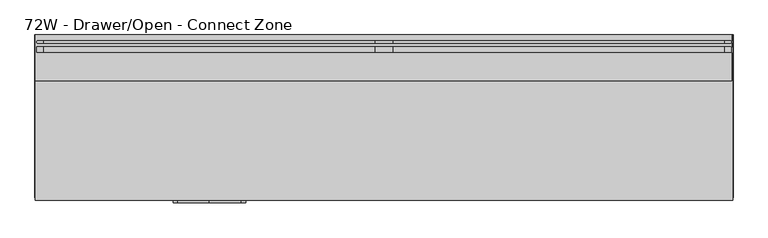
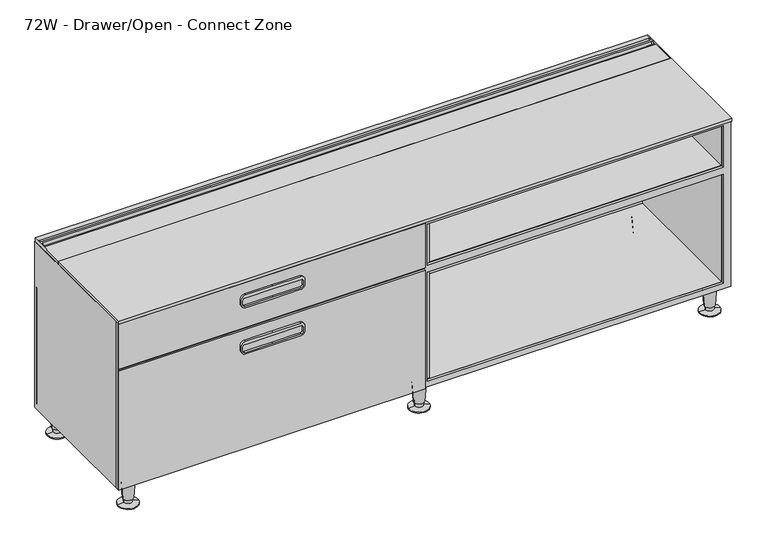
"""IFC4 building model written with IfcOpenShell, lengths in millimetres: furniture geometry, Steelcase - C Scape - Low Storage - 1.5 High - 60W and 72W : 72W - Drawer/Open - Connect Zone."""

from ifc_helpers import new_model, si_unit, point, frame, frame_2d, origin, place, context, project, spatial, polyline, circle_curve, trimmed, segment, composite_curve, outline, extrude, faceted_brep, source, transform, mapped, element, save
from ifc_brep_helpers import plane_surface, cylinder_surface, revolved_surface, advanced_brep


def furniture_72w_drawer_open_connect_zone_11b3cc17(model_context):
    return source(origin(), model_context, "Body", "SolidModel", [
        advanced_brep(
        [(-302.0173728, -29.5783496, 599.4426137), (-302.0173728, -29.5783496, 458.7801967), (-302.0173728, -9.5194193, 458.7801967), (-302.0173728, -9.5194193, 466.2604814), (-302.0173728, 0.0055807, 466.2604814), (-302.0173728, 0.0055807, 599.4426137), (-302.0173728, -17.0388453, 599.4426137), (-302.0173728, -17.0388453, 609.5926846), (-302.0173728, -20.5059237, 609.5926846), (-302.0173728, -20.5059237, 599.4426137), (-302.0173728, -46.4703418, 599.4426137), (-302.0173728, -32.0458511, 599.4426137), (-302.0173728, -32.0458511, 609.5926846), (-302.0173728, -46.4703418, 609.5926846), (-304.8013237, -120.6444193, 599.4426137), (-304.8013237, -120.6444193, 609.5926846), (-304.8013237, 0.0055807, 609.5926846), (-304.8013237, 0.0055807, 466.2604814), (-304.8013237, -9.5194193, 466.2604814), (-304.8013237, -9.5194193, 458.7801967), (-304.8013237, -29.5783496, 458.7801967), (-304.8013237, -29.5783496, 599.4426137), (-299.2329352, -23.2903613, 599.4426137), (1516.9507358, -23.2903613, 599.4426137), (1519.9272317, -20.3138654, 599.4426137), (1519.9473728, -32.274699, 599.4426137), (1517.2308823, -29.5783496, 599.4426137), (-299.5498713, -29.5783496, 599.4426137), (1519.9473728, -46.4703418, 599.4426137), (1519.9473728, -120.5681445, 599.4426137), (-299.3205978, -14.3420703, 599.4426137), (1519.9473728, 0.0, 599.4426137), (1519.9473728, -17.0388453, 599.4426137), (1517.2505978, -14.3420703, 599.4426137), (1519.9473728, 0.0055807, 609.5926846), (1519.9473728, -120.5681445, 609.5926846), (1519.9473728, -46.4703418, 609.5926846), (-299.5498713, -29.5783496, 609.5926846), (1517.2308823, -29.5783496, 609.5926846), (1519.9272317, -32.274699, 609.5926846), (1519.9473728, -20.3138654, 609.5926846), (1516.9507358, -23.2903613, 609.5926846), (-299.2329352, -23.2903613, 609.5926846), (-299.3205978, -14.3420703, 609.5926846), (1517.2505978, -14.3420703, 609.5926846), (1519.9473728, -17.0388453, 609.5926846)],
        [
            (0, 1),
            (1, 2),
            (2, 3),
            (3, 4),
            (4, 5),
            (5, 6),
            (6, 7),
            (7, 8),
            (8, 9),
            (9, 0),
            (10, 11),
            (11, 12),
            (12, 13),
            (13, 10),
            (14, 15),
            (15, 16),
            (16, 17),
            (17, 18),
            (18, 19),
            (19, 20),
            (20, 21),
            (21, 14),
            (21, 0),
            (9, 22, circle_curve(frame((-299.2329352, -20.5059237, 599.4426137), z_axis=(0.0, 0.0, 1.0), x_axis=(1.0, 0.0, 0.0)), 2.7844376)),
            (22, 23),
            (23, 24, circle_curve(frame((1516.9507358, -20.3138654, 599.4426137), z_axis=(0.0, 0.0, 1.0), x_axis=(1.0, 0.0, 0.0)), 2.9764959)),
            (24, 25),
            (25, 26, circle_curve(frame((1517.2308823, -32.274699, 599.4426137), z_axis=(0.0, 0.0, 1.0), x_axis=(1.0, 0.0, 0.0)), 2.6963494)),
            (26, 27),
            (27, 11, circle_curve(frame((-299.5498713, -32.0458511, 599.4426137), z_axis=(0.0, 0.0, 1.0), x_axis=(1.0, 0.0, 0.0)), 2.4675015)),
            (10, 28),
            (28, 29),
            (29, 14),
            (30, 6, circle_curve(frame((-299.3205978, -17.0388453, 599.4426137), z_axis=(0.0, 0.0, 1.0), x_axis=(1.0, 0.0, 0.0)), 2.696775)),
            (5, 31),
            (31, 32),
            (32, 33, circle_curve(frame((1517.2505978, -17.0388453, 599.4426137), z_axis=(0.0, 0.0, 1.0), x_axis=(1.0, 0.0, 0.0)), 2.696775)),
            (33, 30),
            (20, 1),
            (19, 2),
            (18, 3),
            (17, 4),
            (16, 34),
            (34, 31),
            (15, 35),
            (35, 36),
            (36, 13),
            (12, 37, circle_curve(frame((-299.5498713, -32.0458511, 609.5926846), z_axis=(0.0, 0.0, -1.0), x_axis=(1.0, 0.0, 0.0)), 2.4675015)),
            (37, 38),
            (38, 39, circle_curve(frame((1517.2308823, -32.274699, 609.5926846), z_axis=(0.0, 0.0, -1.0), x_axis=(1.0, 0.0, 0.0)), 2.6963494)),
            (39, 40),
            (40, 41, circle_curve(frame((1516.9507358, -20.3138654, 609.5926846), z_axis=(0.0, 0.0, -1.0), x_axis=(1.0, 0.0, 0.0)), 2.9764959)),
            (41, 42),
            (42, 8, circle_curve(frame((-299.2329352, -20.5059237, 609.5926846), z_axis=(0.0, 0.0, -1.0), x_axis=(1.0, 0.0, 0.0)), 2.7844376)),
            (7, 43, circle_curve(frame((-299.3205978, -17.0388453, 609.5926846), z_axis=(0.0, 0.0, -1.0), x_axis=(1.0, 0.0, 0.0)), 2.696775)),
            (43, 44),
            (44, 45, circle_curve(frame((1517.2505978, -17.0388453, 609.5926846), z_axis=(0.0, 0.0, -1.0), x_axis=(1.0, 0.0, 0.0)), 2.696775)),
            (45, 34),
            (29, 35),
            (38, 26),
            (25, 39),
            (24, 40),
            (23, 41),
            (22, 42),
            (27, 37),
            (36, 28),
            (43, 30),
            (33, 44),
            (32, 45),
        ],
        [
            plane_surface(frame((-302.0173728, -120.6444193, 599.4426137), z_axis=(1.0, 0.0, 0.0), x_axis=(0.0, 1.0, 0.0))),
            plane_surface(frame((-304.8013237, -120.6444193, 599.4426137), z_axis=(-1.0, 0.0, 0.0), x_axis=(0.0, -1.0, 0.0))),
            plane_surface(frame((-302.0173728, -120.6444193, 599.4426137), z_axis=(0.0, 0.0, -1.0), x_axis=(-1.0, 0.0, 0.0))),
            plane_surface(frame((-302.0173728, -29.5783496, 599.4426137), z_axis=(0.0, -1.0, 0.0), x_axis=(-1.0, 0.0, 0.0))),
            plane_surface(frame((-302.0173728, -29.5783496, 458.7801967), z_axis=(0.0, 0.0, -1.0), x_axis=(-1.0, 0.0, 0.0))),
            plane_surface(frame((-302.0173728, -9.5194193, 458.7801967), z_axis=(0.0, 1.0, 0.0), x_axis=(-1.0, 0.0, 0.0))),
            plane_surface(frame((-302.0173728, -9.5194193, 466.2604814), z_axis=(0.0, 0.0, -1.0), x_axis=(-1.0, 0.0, 0.0))),
            plane_surface(frame((-302.0173728, 0.0055807, 466.2604814), z_axis=(0.0, 1.0, 0.0), x_axis=(-1.0, 0.0, 0.0))),
            plane_surface(frame((-302.0173728, 0.0055807, 609.5926846), z_axis=(0.0, 0.0, 1.0), x_axis=(-1.0, 0.0, 0.0))),
            plane_surface(frame((-302.0173728, -120.6444193, 609.5926846), z_axis=(0.0, -1.0, 0.0), x_axis=(-1.0, 0.0, 0.0))),
            revolved_surface(polyline([(1519.9272317, -32.274699, 599.4426137), (1519.9272317, -32.274699, 609.5926846)]), (1517.2308823, -32.274699, 599.4426137), (0.0, 0.0, -1.0)),
            plane_surface(frame((1519.9473728, -32.274699, 609.5926846), z_axis=(1.0, 0.0, 0.0), x_axis=(0.0, 0.0, -1.0))),
            revolved_surface(polyline([(1519.9272317, -20.3138654, 599.4426137), (1519.9272317, -20.3138654, 609.5926846)]), (1516.9507358, -20.3138654, 599.4426137), (0.0, 0.0, -1.0)),
            plane_surface(frame((1516.9507358, -23.2903613, 609.5926846), z_axis=(0.0, 1.0, 0.0), x_axis=(0.0, 0.0, -1.0))),
            revolved_surface(polyline([(-296.4484976, -20.5059237, 599.4426137), (-296.4484976, -20.5059237, 609.5926846)]), (-299.2329352, -20.5059237, 599.4426137), (0.0, 0.0, -1.0)),
            revolved_surface(polyline([(-297.0823698, -32.0458511, 599.4426137), (-297.0823698, -32.0458511, 609.5926846)]), (-299.5498713, -32.0458511, 599.4426137), (0.0, 0.0, -1.0)),
            plane_surface(frame((-299.5498713, -29.5783496, 609.5926846), z_axis=(0.0, -1.0, 0.0), x_axis=(0.0, 0.0, -1.0))),
            plane_surface(frame((1519.9473728, -46.4703418, 609.5926846), z_axis=(0.0, 1.0, 0.0), x_axis=(0.0, 0.0, -1.0))),
            plane_surface(frame((1519.9473728, -120.5681445, 609.5926846), z_axis=(1.0, 0.0, 0.0), x_axis=(0.0, 0.0, -1.0))),
            plane_surface(frame((-299.3205978, -14.3420703, 609.5926846), z_axis=(0.0, -1.0, 0.0), x_axis=(0.0, 0.0, -1.0))),
            revolved_surface(polyline([(1519.9473727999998, -17.0388453, 599.4426137), (1519.9473727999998, -17.0388453, 609.5926846)]), (1517.2505978, -17.0388453, 41.6222656), (0.0, 0.0, -1.0)),
            plane_surface(frame((1519.9473728, -17.0388453, 609.5926846), z_axis=(1.0, 0.0, 0.0), x_axis=(0.0, 0.0, -1.0))),
            revolved_surface(polyline([(-296.62382279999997, -17.0388453, 599.4426137), (-296.62382279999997, -17.0388453, 609.5926846)]), (-299.3205978, -17.0388453, 41.6222656), (0.0, 0.0, -1.0)),
        ],
        [
            (0, [[1, 2, 3, 4, 5, 6, 7, 8, 9, 10]]),
            (0, [[11, 12, 13, 14]]),
            (1, [[15, 16, 17, 18, 19, 20, 21, 22]]),
            (2, [[-22, 23, -10, 24, 25, 26, 27, 28, 29, 30, -11, 31, 32, 33]]),
            (2, [[34, -6, 35, 36, 37, 38]]),
            (3, [[-1, -23, -21, 39]]),
            (4, [[-2, -39, -20, 40]]),
            (5, [[-3, -40, -19, 41]]),
            (6, [[-4, -41, -18, 42]]),
            (7, [[-17, 43, 44, -35, -5, -42]]),
            (8, [[-43, -16, 45, 46, 47, -13, 48, 49, 50, 51, 52, 53, 54, -8, 55, 56, 57, 58]]),
            (9, [[-45, -15, -33, 59]]),
            (10, [[-50, 60, -28, 61]]),
            (11, [[-51, -61, -27, 62]]),
            (12, [[-52, -62, -26, 63]]),
            (13, [[-53, -63, -25, 64]]),
            (14, [[-54, -64, -24, -9]]),
            (15, [[-48, -12, -30, 65]]),
            (16, [[-49, -65, -29, -60]]),
            (17, [[-47, 66, -31, -14]]),
            (18, [[-46, -59, -32, -66]]),
            (19, [[-56, 67, -38, 68]]),
            (20, [[-57, -68, -37, 69]]),
            (21, [[-58, -69, -36, -44]]),
            (22, [[-55, -7, -34, -67]]),
        ],
    ),
        extrude(outline(polyline([(458.7240097, 724.5950189), (432.6382043, 724.5950189), (432.6382043, 602.2975), (432.6382043, 493.3349811), (458.7240097, 493.3349811), (458.7240097, -304.8013237), (92.7100024, -304.8013237), (92.7100024, 1522.73), (458.7240097, 1522.73), (458.7240097, 724.5950189)])), frame((0.0, -9.5194193, 0.0), z_axis=(0.0, 1.0, 0.0), x_axis=(0.0, 0.0, 1.0)), (0.0, 0.0, 1.0), 9.525),
        extrude(outline(polyline([(-120.6444193, 609.6), (-120.6444193, 450.8499879), (-126.9863574, 450.8499879), (-126.9863574, 599.4499291), (-433.07, 599.4499291), (-433.07, 609.6), (-120.6444193, 609.6)])), frame((-304.8013237, 0.0, 0.0), z_axis=(1.0, 0.0, 0.0), x_axis=(0.0, 1.0, 0.0)), (0.0, 0.0, 1.0), 1827.5313237),
        extrude(outline(polyline([(-120.6444193, 599.4426137), (-120.6444193, 609.5926846), (0.0055807, 609.5926846), (0.0055807, 466.2604814), (-9.5194193, 466.2604814), (-9.5194193, 458.7801967), (-29.5783496, 458.7801967), (-29.5783496, 599.4426137), (-120.6444193, 599.4426137)])), frame((1519.9473728, 0.0, 0.0), z_axis=(1.0, 0.0, 0.0), x_axis=(0.0, 1.0, 0.0)), (0.0, 0.0, 1.0), 2.7826272),
        extrude(outline(polyline([(76.1508625, -305.435), (76.1508625, 1523.365), (599.4400097, 1523.365), (599.4400097, 609.532594), (599.4400097, -305.435), (76.1508625, -305.435)]), holes=[polyline([(92.7100024, 600.0410976), (92.7100024, -283.4617676), (436.8800097, -283.4617676), (436.8800097, 600.0410976), (92.7100024, 600.0410976)]), polyline([(588.9625, -283.4617676), (588.9625, 600.0410976), (458.7240097, 600.0410976), (458.7240097, -283.4617676), (588.9625, -283.4617676)]), polyline([(436.8800097, 617.8889024), (436.8800097, 1501.3917676), (92.7100024, 1501.3917676), (92.7100024, 617.8889024), (436.8800097, 617.8889024)]), polyline([(588.9625, 1501.3917676), (458.7240097, 1501.3917676), (458.7240097, 617.8889024), (588.9625, 617.8889024), (588.9625, 1501.3917676)])]), frame((0.0, -426.7186111, 0.0), z_axis=(0.0, 1.0, 0.0), x_axis=(0.0, 0.0, 1.0)), (0.0, 0.0, 1.0), 7.3648883),
        extrude(outline(polyline([(1523.365, 0.0), (1523.365, -419.3537227), (1501.3917676, -419.3537227), (1501.3917676, 0.0), (1523.365, 0.0)])), frame((0.0, 0.0, 76.2), z_axis=(0.0, 0.0, 1.0), x_axis=(1.0, 0.0, 0.0)), (0.0, 0.0, 1.0), 523.2400097),
        extrude(outline(polyline([(-283.4630912, -419.3537227), (-305.435, -419.3537227), (-305.435, 0.0), (-283.4630912, 0.0), (-283.4630912, -419.3537227)])), frame((0.0, 0.0, 76.2), z_axis=(0.0, 0.0, 1.0), x_axis=(1.0, 0.0, 0.0)), (0.0, 0.0, 1.0), 523.2400097),
        extrude(outline(polyline([(586.4224874, -415.2912402), (586.4224874, -9.525), (631.5075126, -9.525), (631.5075126, -415.2912402), (586.4224874, -415.2912402)])), frame((0.0, 0.0, 76.2), z_axis=(0.0, 0.0, 1.0), x_axis=(1.0, 0.0, 0.0)), (0.0, 0.0, 1.0), 523.2400097),
        extrude(outline(polyline([(631.5075126, -9.525), (1501.3917676, -9.525), (1501.3917676, -415.2912402), (631.5075126, -415.2912402), (631.5075126, -9.525)])), frame((0.0, 0.0, 436.8800097), z_axis=(0.0, 0.0, 1.0), x_axis=(1.0, 0.0, 0.0)), (0.0, 0.0, 1.0), 21.844),
        extrude(outline(polyline([(586.4224874, -415.2912402), (-283.4617676, -415.2912402), (-283.4617676, -9.525), (586.4224874, -9.525), (586.4224874, -415.2912402)])), frame((0.0, 0.0, 436.8800097), z_axis=(0.0, 0.0, 1.0), x_axis=(1.0, 0.0, 0.0)), (0.0, 0.0, 1.0), 21.844),
        extrude(outline(composite_curve([segment(polyline([(419.0999879, 233.6804108), (419.0999879, 151.447655), (419.0999879, 69.2148993)]), True, "CONTINUOUS"), segment(trimmed(circle_curve(frame_2d((406.3999879, 69.2148993)), 12.7), [point((419.0999879, 69.2148993))], [point((406.3999879, 56.5148993))], False, "CARTESIAN"), True, "CONTINUOUS"), segment(polyline([(406.3999879, 56.5148993), (391.795017, 56.5148993)]), True, "CONTINUOUS"), segment(trimmed(circle_curve(frame_2d((391.795017, 69.2148993)), 12.7), [point((391.795017, 56.5148993))], [point((379.095017, 69.2148993))], False, "CARTESIAN"), True, "CONTINUOUS"), segment(polyline([(379.095017, 69.2148993), (379.095017, 151.447655), (379.095017, 233.6804108)]), True, "CONTINUOUS"), segment(trimmed(circle_curve(frame_2d((391.795017, 233.6804108)), 12.7), [point((379.095017, 233.6804108))], [point((391.795017, 246.3804108))], False, "CARTESIAN"), True, "CONTINUOUS"), segment(polyline([(391.795017, 246.3804108), (406.3999879, 246.3804108)]), True, "CONTINUOUS"), segment(trimmed(circle_curve(frame_2d((406.3999879, 233.6804108)), 12.7), [point((406.3999879, 246.3804108))], [point((419.0999879, 233.6804108))], False, "CARTESIAN"), True, "CONTINUOUS")], self_intersect=False), holes=[composite_curve([segment(polyline([(402.9710063, 241.5527985), (390.2709942, 241.5527985)]), True, "CONTINUOUS"), segment(trimmed(circle_curve(frame_2d((390.2709942, 235.2027985)), 6.35), [point((390.2709942, 241.5527985))], [point((383.9209942, 235.2027985))], True, "CARTESIAN"), True, "CONTINUOUS"), segment(polyline([(383.9209942, 235.2027985), (383.9209942, 151.447655), (383.9209942, 67.6925116)]), True, "CONTINUOUS"), segment(trimmed(circle_curve(frame_2d((390.2709942, 67.6925116)), 6.35), [point((383.9209942, 67.6925116))], [point((390.2709942, 61.3425116))], True, "CARTESIAN"), True, "CONTINUOUS"), segment(polyline([(390.2709942, 61.3425116), (402.9710063, 61.3425116)]), True, "CONTINUOUS"), segment(trimmed(circle_curve(frame_2d((402.9710063, 67.6925116)), 6.35), [point((402.9710063, 61.3425116))], [point((409.3210063, 67.6925116))], True, "CARTESIAN"), True, "CONTINUOUS"), segment(polyline([(409.3210063, 67.6925116), (409.3210063, 151.447655), (409.3210063, 235.2027985)]), True, "CONTINUOUS"), segment(trimmed(circle_curve(frame_2d((402.9710063, 235.2027985)), 6.35), [point((409.3210063, 235.2027985))], [point((402.9710063, 241.5527985))], True, "CARTESIAN"), True, "CONTINUOUS")], self_intersect=False)]), frame((0.0, -439.42, 0.0), z_axis=(0.0, 1.0, 0.0), x_axis=(0.0, 0.0, 1.0)), (0.0, 0.0, 1.0), 6.35),
        extrude(outline(polyline([(608.3303101, -426.7186111), (608.3303101, -433.07), (-304.8, -433.07), (-304.8, -426.7186111), (608.3303101, -426.7186111)])), frame((0.0, 0.0, 458.7240097), z_axis=(0.0, 0.0, 1.0), x_axis=(1.0, 0.0, 0.0)), (0.0, 0.0, 1.0), 140.716),
        faceted_brep([(-283.4617676, -419.3537227, 92.7100024), (1501.3917676, -419.3537227, 92.7100024), (1501.3917676, -9.525, 92.7100024), (631.5075126, -9.525, 92.7100024), (631.5075126, -415.2912402, 92.7100024), (586.4224874, -415.2912402, 92.7100024), (586.4224874, -9.525, 92.7100024), (-283.4617676, -9.525, 92.7100024), (1523.365, 0.0, 76.2), (1523.365, -419.3537227, 76.2), (-305.435, -419.3537227, 76.2), (-305.435, 0.0, 76.2), (-283.4630912, -419.3537227, 599.4400097), (-305.435, -419.3537227, 599.4400097), (1523.365, -419.3537227, 599.4400097), (1501.3917676, -419.3537227, 599.4400097), (-305.435, 0.0, 599.4400097), (1523.365, 0.0, 599.4400097), (-283.4630912, -9.525, 599.4400097), (586.4224874, -9.525, 599.4400097), (586.4224874, -415.2912402, 599.4400097), (631.5075126, -415.2912402, 599.4400097), (631.5075126, -9.525, 599.4400097), (1501.3917676, -9.525, 599.4400097)], [[[0, 1, 2, 3, 4, 5, 6, 7]], [[8, 9, 10, 11]], [[1, 0, 12, 13, 10, 9, 14, 15]], [[8, 11, 16, 17]], [[16, 13, 12, 18, 19, 20, 21, 22, 23, 15, 14, 17]], [[13, 16, 11, 10]], [[18, 12, 0, 7]], [[19, 18, 7, 6]], [[20, 19, 6, 5]], [[22, 21, 4, 3]], [[23, 22, 3, 2]], [[15, 23, 2, 1]], [[17, 14, 9, 8]], [[21, 20, 5, 4]]]),
        extrude(outline(composite_curve([segment(polyline([(565.1499879, 233.6804108), (565.1499879, 151.447655), (565.1499879, 69.2148993)]), True, "CONTINUOUS"), segment(trimmed(circle_curve(frame_2d((552.4499879, 69.2148993)), 12.7), [point((565.1499879, 69.2148993))], [point((552.4499879, 56.5148993))], False, "CARTESIAN"), True, "CONTINUOUS"), segment(polyline([(552.4499879, 56.5148993), (537.845017, 56.5148993)]), True, "CONTINUOUS"), segment(trimmed(circle_curve(frame_2d((537.845017, 69.2148993)), 12.7), [point((537.845017, 56.5148993))], [point((525.145017, 69.2148993))], False, "CARTESIAN"), True, "CONTINUOUS"), segment(polyline([(525.145017, 69.2148993), (525.145017, 151.447655), (525.145017, 233.6804108)]), True, "CONTINUOUS"), segment(trimmed(circle_curve(frame_2d((537.845017, 233.6804108)), 12.7), [point((525.145017, 233.6804108))], [point((537.845017, 246.3804108))], False, "CARTESIAN"), True, "CONTINUOUS"), segment(polyline([(537.845017, 246.3804108), (552.4499879, 246.3804108)]), True, "CONTINUOUS"), segment(trimmed(circle_curve(frame_2d((552.4499879, 233.6804108)), 12.7), [point((552.4499879, 246.3804108))], [point((565.1499879, 233.6804108))], False, "CARTESIAN"), True, "CONTINUOUS")], self_intersect=False), holes=[composite_curve([segment(polyline([(549.0210063, 241.5527985), (536.3209942, 241.5527985)]), True, "CONTINUOUS"), segment(trimmed(circle_curve(frame_2d((536.3209942, 235.2027985)), 6.35), [point((536.3209942, 241.5527985))], [point((529.9709942, 235.2027985))], True, "CARTESIAN"), True, "CONTINUOUS"), segment(polyline([(529.9709942, 235.2027985), (529.9709942, 151.447655), (529.9709942, 67.6925116)]), True, "CONTINUOUS"), segment(trimmed(circle_curve(frame_2d((536.3209942, 67.6925116)), 6.35), [point((529.9709942, 67.6925116))], [point((536.3209942, 61.3425116))], True, "CARTESIAN"), True, "CONTINUOUS"), segment(polyline([(536.3209942, 61.3425116), (549.0210063, 61.3425116)]), True, "CONTINUOUS"), segment(trimmed(circle_curve(frame_2d((549.0210063, 67.6925116)), 6.35), [point((549.0210063, 61.3425116))], [point((555.3710063, 67.6925116))], True, "CARTESIAN"), True, "CONTINUOUS"), segment(polyline([(555.3710063, 67.6925116), (555.3710063, 151.447655), (555.3710063, 235.2027985)]), True, "CONTINUOUS"), segment(trimmed(circle_curve(frame_2d((549.0210063, 235.2027985)), 6.35), [point((555.3710063, 235.2027985))], [point((549.0210063, 241.5527985))], True, "CARTESIAN"), True, "CONTINUOUS")], self_intersect=False)]), frame((0.0, -439.42, 0.0), z_axis=(0.0, 1.0, 0.0), x_axis=(0.0, 0.0, 1.0)), (0.0, 0.0, 1.0), 6.35),
        extrude(outline(polyline([(608.3303101, -426.7186111), (608.3303101, -433.07), (-304.8, -433.07), (-304.8, -426.7186111), (608.3303101, -426.7186111)])), frame((0.0, 0.0, 76.2), z_axis=(0.0, 0.0, 1.0), x_axis=(1.0, 0.0, 0.0)), (0.0, 0.0, 1.0), 374.6500097),
        advanced_brep(
        [(579.8539515, -29.9489775, 0.0), (638.0760485, -38.8569507, 0.0), (608.965, -34.4029641, 0.0), (579.8539515, -29.9489775, 2.5119506), (638.0760485, -38.8569507, 2.5119506), (597.202835, -32.6033544, 5.7545598), (620.727165, -36.2025738, 5.7545598), (596.5140655, -32.4979728, 19.05), (621.4159345, -36.3079555, 19.05), (594.0844786, -32.1262463, 19.05), (623.8455214, -36.6796819, 19.05), (590.1341305, -31.5218435, 76.2), (627.7958695, -37.2840847, 76.2), (608.965, -34.4029641, 76.2)],
        [
            (0, 1, circle_curve(frame((608.965, -34.4029641, 0.0), z_axis=(0.0, 0.0, -1.0), x_axis=(0.0, -1.0, 0.0)), 29.4498071)),
            (1, 2),
            (2, 0),
            (1, 0, circle_curve(frame((608.965, -34.4029641, 0.0), z_axis=(0.0, 0.0, -1.0), x_axis=(0.0, -1.0, 0.0)), 29.4498071)),
            (3, 4, circle_curve(frame((608.965, -34.4029641, 2.5119506), z_axis=(0.0, 0.0, -1.0), x_axis=(0.0, -1.0, 0.0)), 29.4498071)),
            (4, 1),
            (0, 3),
            (4, 3, circle_curve(frame((608.965, -34.4029641, 2.5119506), z_axis=(0.0, 0.0, -1.0), x_axis=(0.0, -1.0, 0.0)), 29.4498071)),
            (5, 6, circle_curve(frame((608.965, -34.4029641, 5.7545598), z_axis=(0.0, 0.0, -1.0), x_axis=(0.0, -1.0, 0.0)), 11.8990387)),
            (6, 4),
            (3, 5),
            (6, 5, circle_curve(frame((608.965, -34.4029641, 5.7545598), z_axis=(0.0, 0.0, -1.0), x_axis=(0.0, -1.0, 0.0)), 11.8990387)),
            (7, 8, circle_curve(frame((608.965, -34.4029641, 19.05), z_axis=(0.0, 0.0, -1.0), x_axis=(0.0, -1.0, 0.0)), 12.5958232)),
            (8, 6),
            (5, 7),
            (8, 7, circle_curve(frame((608.965, -34.4029641, 19.05), z_axis=(0.0, 0.0, -1.0), x_axis=(0.0, -1.0, 0.0)), 12.5958232)),
            (9, 10, circle_curve(frame((608.965, -34.4029641, 19.05), z_axis=(0.0, 0.0, -1.0), x_axis=(0.0, -1.0, 0.0)), 15.0536827)),
            (10, 8),
            (7, 9),
            (10, 9, circle_curve(frame((608.965, -34.4029641, 19.05), z_axis=(0.0, 0.0, -1.0), x_axis=(0.0, -1.0, 0.0)), 15.0536827)),
            (11, 12, circle_curve(frame((608.965, -34.4029641, 76.2), z_axis=(0.0, 0.0, -1.0), x_axis=(0.0, -1.0, 0.0)), 19.05)),
            (12, 10),
            (9, 11),
            (12, 11, circle_curve(frame((608.965, -34.4029641, 76.2), z_axis=(0.0, 0.0, -1.0), x_axis=(0.0, -1.0, 0.0)), 19.05)),
            (13, 12),
            (11, 13),
        ],
        [
            plane_surface(frame((608.965, -34.4029641, 0.0), z_axis=(0.0, 0.0, -1.0), x_axis=(0.0, -1.0, 0.0))),
            cylinder_surface(frame((608.965, -34.4029641, 25.4), z_axis=(0.0, 0.0, 1.0), x_axis=(0.0, -1.0, 0.0)), 29.4498071),
            revolved_surface(polyline([(608.965, -63.8527712, 2.5119506), (608.965, -46.3020028, 5.7545598)]), (608.965, -34.4029641, 25.4), (0.0, 0.0, 1.0)),
            revolved_surface(polyline([(608.965, -46.3020028, 5.7545598), (608.965, -46.9987873, 19.05)]), (608.965, -34.4029641, 25.4), (0.0, 0.0, 1.0)),
            plane_surface(frame((608.965, -34.4029641, 19.05), z_axis=(0.0, 0.0, -1.0), x_axis=(0.0, -1.0, 0.0))),
            revolved_surface(polyline([(608.965, -49.4566468, 19.05), (608.965, -53.4529641, 76.2)]), (608.965, -34.4029641, 25.4), (0.0, 0.0, 1.0)),
            plane_surface(frame((608.965, -34.4029641, 76.2), z_axis=(0.0, 0.0, 1.0), x_axis=(0.0, -1.0, 0.0))),
        ],
        [
            (0, [[1, 2, 3]]),
            (0, [[4, -3, -2]]),
            (1, [[5, 6, -1, 7]]),
            (1, [[8, -7, -4, -6]]),
            (2, [[9, 10, -5, 11]]),
            (2, [[12, -11, -8, -10]]),
            (3, [[13, 14, -9, 15]]),
            (3, [[16, -15, -12, -14]]),
            (4, [[17, 18, -13, 19]]),
            (4, [[20, -19, -16, -18]]),
            (5, [[21, 22, -17, 23]]),
            (5, [[24, -23, -20, -22]]),
            (6, [[25, -21, 26]]),
            (6, [[-26, -24, -25]]),
        ],
    ),
        advanced_brep(
        [(579.8539515, -395.5974102, 0.0), (638.0760485, -404.5053834, 0.0), (608.965, -400.0513968, 0.0), (579.8539515, -395.5974102, 2.5119506), (638.0760485, -404.5053834, 2.5119506), (597.202835, -398.2517871, 5.7545598), (620.727165, -401.8510065, 5.7545598), (596.5140655, -398.1464055, 19.05), (621.4159345, -401.9563882, 19.05), (594.0844786, -397.774679, 19.05), (623.8455214, -402.3281146, 19.05), (590.1341305, -397.1702762, 76.2), (627.7958695, -402.9325174, 76.2), (608.965, -400.0513968, 76.2)],
        [
            (0, 1, circle_curve(frame((608.965, -400.0513968, 0.0), z_axis=(0.0, 0.0, -1.0), x_axis=(0.0, -1.0, 0.0)), 29.4498071)),
            (1, 2),
            (2, 0),
            (1, 0, circle_curve(frame((608.965, -400.0513968, 0.0), z_axis=(0.0, 0.0, -1.0), x_axis=(0.0, -1.0, 0.0)), 29.4498071)),
            (3, 4, circle_curve(frame((608.965, -400.0513968, 2.5119506), z_axis=(0.0, 0.0, -1.0), x_axis=(0.0, -1.0, 0.0)), 29.4498071)),
            (4, 1),
            (0, 3),
            (4, 3, circle_curve(frame((608.965, -400.0513968, 2.5119506), z_axis=(0.0, 0.0, -1.0), x_axis=(0.0, -1.0, 0.0)), 29.4498071)),
            (5, 6, circle_curve(frame((608.965, -400.0513968, 5.7545598), z_axis=(0.0, 0.0, -1.0), x_axis=(0.0, -1.0, 0.0)), 11.8990387)),
            (6, 4),
            (3, 5),
            (6, 5, circle_curve(frame((608.965, -400.0513968, 5.7545598), z_axis=(0.0, 0.0, -1.0), x_axis=(0.0, -1.0, 0.0)), 11.8990387)),
            (7, 8, circle_curve(frame((608.965, -400.0513968, 19.05), z_axis=(0.0, 0.0, -1.0), x_axis=(0.0, -1.0, 0.0)), 12.5958232)),
            (8, 6),
            (5, 7),
            (8, 7, circle_curve(frame((608.965, -400.0513968, 19.05), z_axis=(0.0, 0.0, -1.0), x_axis=(0.0, -1.0, 0.0)), 12.5958232)),
            (9, 10, circle_curve(frame((608.965, -400.0513968, 19.05), z_axis=(0.0, 0.0, -1.0), x_axis=(0.0, -1.0, 0.0)), 15.0536827)),
            (10, 8),
            (7, 9),
            (10, 9, circle_curve(frame((608.965, -400.0513968, 19.05), z_axis=(0.0, 0.0, -1.0), x_axis=(0.0, -1.0, 0.0)), 15.0536827)),
            (11, 12, circle_curve(frame((608.965, -400.0513968, 76.2), z_axis=(0.0, 0.0, -1.0), x_axis=(0.0, -1.0, 0.0)), 19.05)),
            (12, 10),
            (9, 11),
            (12, 11, circle_curve(frame((608.965, -400.0513968, 76.2), z_axis=(0.0, 0.0, -1.0), x_axis=(0.0, -1.0, 0.0)), 19.05)),
            (13, 12),
            (11, 13),
        ],
        [
            plane_surface(frame((608.965, -400.0513968, 0.0), z_axis=(0.0, 0.0, -1.0), x_axis=(0.0, -1.0, 0.0))),
            cylinder_surface(frame((608.965, -400.0513968, 25.4), z_axis=(0.0, 0.0, 1.0), x_axis=(0.0, -1.0, 0.0)), 29.4498071),
            revolved_surface(polyline([(608.965, -429.5012039, 2.5119506), (608.965, -411.9504355, 5.7545598)]), (608.965, -400.0513968, 25.4), (0.0, 0.0, 1.0)),
            revolved_surface(polyline([(608.965, -411.9504355, 5.7545598), (608.965, -412.64722, 19.05)]), (608.965, -400.0513968, 25.4), (0.0, 0.0, 1.0)),
            plane_surface(frame((608.965, -400.0513968, 19.05), z_axis=(0.0, 0.0, -1.0), x_axis=(0.0, -1.0, 0.0))),
            revolved_surface(polyline([(608.965, -415.1050795, 19.05), (608.965, -419.1013968, 76.2)]), (608.965, -400.0513968, 25.4), (0.0, 0.0, 1.0)),
            plane_surface(frame((608.965, -400.0513968, 76.2), z_axis=(0.0, 0.0, 1.0), x_axis=(0.0, -1.0, 0.0))),
        ],
        [
            (0, [[1, 2, 3]]),
            (0, [[4, -3, -2]]),
            (1, [[5, 6, -1, 7]]),
            (1, [[8, -7, -4, -6]]),
            (2, [[9, 10, -5, 11]]),
            (2, [[12, -11, -8, -10]]),
            (3, [[13, 14, -9, 15]]),
            (3, [[16, -15, -12, -14]]),
            (4, [[17, 18, -13, 19]]),
            (4, [[20, -19, -16, -18]]),
            (5, [[21, 22, -17, 23]]),
            (5, [[24, -23, -20, -22]]),
            (6, [[25, -21, 26]]),
            (6, [[-26, -24, -25]]),
        ],
    ),
        advanced_brep(
        [(1446.9075389, -29.9489775, 0.0), (1505.1296359, -38.8569507, 0.0), (1476.0185874, -34.4029641, 0.0), (1446.9075389, -29.9489775, 2.5119506), (1505.1296359, -38.8569507, 2.5119506), (1464.2564224, -32.6033544, 5.7545598), (1487.7807524, -36.2025738, 5.7545598), (1463.5676529, -32.4979728, 19.05), (1488.4695219, -36.3079555, 19.05), (1461.1380659, -32.1262463, 19.05), (1490.8991088, -36.6796819, 19.05), (1457.1877179, -31.5218435, 76.2), (1494.8494568, -37.2840847, 76.2), (1476.0185874, -34.4029641, 76.2)],
        [
            (0, 1, circle_curve(frame((1476.0185874, -34.4029641, 0.0), z_axis=(0.0, 0.0, -1.0), x_axis=(0.0, -1.0, 0.0)), 29.4498071)),
            (1, 2),
            (2, 0),
            (1, 0, circle_curve(frame((1476.0185874, -34.4029641, 0.0), z_axis=(0.0, 0.0, -1.0), x_axis=(0.0, -1.0, 0.0)), 29.4498071)),
            (3, 4, circle_curve(frame((1476.0185874, -34.4029641, 2.5119506), z_axis=(0.0, 0.0, -1.0), x_axis=(0.0, -1.0, 0.0)), 29.4498071)),
            (4, 1),
            (0, 3),
            (4, 3, circle_curve(frame((1476.0185874, -34.4029641, 2.5119506), z_axis=(0.0, 0.0, -1.0), x_axis=(0.0, -1.0, 0.0)), 29.4498071)),
            (5, 6, circle_curve(frame((1476.0185874, -34.4029641, 5.7545598), z_axis=(0.0, 0.0, -1.0), x_axis=(0.0, -1.0, 0.0)), 11.8990387)),
            (6, 4),
            (3, 5),
            (6, 5, circle_curve(frame((1476.0185874, -34.4029641, 5.7545598), z_axis=(0.0, 0.0, -1.0), x_axis=(0.0, -1.0, 0.0)), 11.8990387)),
            (7, 8, circle_curve(frame((1476.0185874, -34.4029641, 19.05), z_axis=(0.0, 0.0, -1.0), x_axis=(0.0, -1.0, 0.0)), 12.5958232)),
            (8, 6),
            (5, 7),
            (8, 7, circle_curve(frame((1476.0185874, -34.4029641, 19.05), z_axis=(0.0, 0.0, -1.0), x_axis=(0.0, -1.0, 0.0)), 12.5958232)),
            (9, 10, circle_curve(frame((1476.0185874, -34.4029641, 19.05), z_axis=(0.0, 0.0, -1.0), x_axis=(0.0, -1.0, 0.0)), 15.0536827)),
            (10, 8),
            (7, 9),
            (10, 9, circle_curve(frame((1476.0185874, -34.4029641, 19.05), z_axis=(0.0, 0.0, -1.0), x_axis=(0.0, -1.0, 0.0)), 15.0536827)),
            (11, 12, circle_curve(frame((1476.0185874, -34.4029641, 76.2), z_axis=(0.0, 0.0, -1.0), x_axis=(0.0, -1.0, 0.0)), 19.05)),
            (12, 10),
            (9, 11),
            (12, 11, circle_curve(frame((1476.0185874, -34.4029641, 76.2), z_axis=(0.0, 0.0, -1.0), x_axis=(0.0, -1.0, 0.0)), 19.05)),
            (13, 12),
            (11, 13),
        ],
        [
            plane_surface(frame((1476.0185874, -34.4029641, 0.0), z_axis=(0.0, 0.0, -1.0), x_axis=(0.0, -1.0, 0.0))),
            cylinder_surface(frame((1476.0185874, -34.4029641, 25.4), z_axis=(0.0, 0.0, 1.0), x_axis=(0.0, -1.0, 0.0)), 29.4498071),
            revolved_surface(polyline([(1476.0185874, -63.8527712, 2.5119506), (1476.0185874, -46.3020028, 5.7545598)]), (1476.0185874, -34.4029641, 25.4), (0.0, 0.0, 1.0)),
            revolved_surface(polyline([(1476.0185874, -46.3020028, 5.7545598), (1476.0185874, -46.9987873, 19.05)]), (1476.0185874, -34.4029641, 25.4), (0.0, 0.0, 1.0)),
            plane_surface(frame((1476.0185874, -34.4029641, 19.05), z_axis=(0.0, 0.0, -1.0), x_axis=(0.0, -1.0, 0.0))),
            revolved_surface(polyline([(1476.0185874, -49.4566468, 19.05), (1476.0185874, -53.4529641, 76.2)]), (1476.0185874, -34.4029641, 25.4), (0.0, 0.0, 1.0)),
            plane_surface(frame((1476.0185874, -34.4029641, 76.2), z_axis=(0.0, 0.0, 1.0), x_axis=(0.0, -1.0, 0.0))),
        ],
        [
            (0, [[1, 2, 3]]),
            (0, [[4, -3, -2]]),
            (1, [[5, 6, -1, 7]]),
            (1, [[8, -7, -4, -6]]),
            (2, [[9, 10, -5, 11]]),
            (2, [[12, -11, -8, -10]]),
            (3, [[13, 14, -9, 15]]),
            (3, [[16, -15, -12, -14]]),
            (4, [[17, 18, -13, 19]]),
            (4, [[20, -19, -16, -18]]),
            (5, [[21, 22, -17, 23]]),
            (5, [[24, -23, -20, -22]]),
            (6, [[25, -21, 26]]),
            (6, [[-26, -24, -25]]),
        ],
    ),
        advanced_brep(
        [(1446.9075389, -395.5974102, 0.0), (1505.1296359, -404.5053834, 0.0), (1476.0185874, -400.0513968, 0.0), (1446.9075389, -395.5974102, 2.5119506), (1505.1296359, -404.5053834, 2.5119506), (1464.2564224, -398.2517871, 5.7545598), (1487.7807524, -401.8510065, 5.7545598), (1463.5676529, -398.1464055, 19.05), (1488.4695219, -401.9563882, 19.05), (1461.1380659, -397.774679, 19.05), (1490.8991088, -402.3281146, 19.05), (1457.1877179, -397.1702762, 76.2), (1494.8494568, -402.9325174, 76.2), (1476.0185874, -400.0513968, 76.2)],
        [
            (0, 1, circle_curve(frame((1476.0185874, -400.0513968, 0.0), z_axis=(0.0, 0.0, -1.0), x_axis=(0.0, -1.0, 0.0)), 29.4498071)),
            (1, 2),
            (2, 0),
            (1, 0, circle_curve(frame((1476.0185874, -400.0513968, 0.0), z_axis=(0.0, 0.0, -1.0), x_axis=(0.0, -1.0, 0.0)), 29.4498071)),
            (3, 4, circle_curve(frame((1476.0185874, -400.0513968, 2.5119506), z_axis=(0.0, 0.0, -1.0), x_axis=(0.0, -1.0, 0.0)), 29.4498071)),
            (4, 1),
            (0, 3),
            (4, 3, circle_curve(frame((1476.0185874, -400.0513968, 2.5119506), z_axis=(0.0, 0.0, -1.0), x_axis=(0.0, -1.0, 0.0)), 29.4498071)),
            (5, 6, circle_curve(frame((1476.0185874, -400.0513968, 5.7545598), z_axis=(0.0, 0.0, -1.0), x_axis=(0.0, -1.0, 0.0)), 11.8990387)),
            (6, 4),
            (3, 5),
            (6, 5, circle_curve(frame((1476.0185874, -400.0513968, 5.7545598), z_axis=(0.0, 0.0, -1.0), x_axis=(0.0, -1.0, 0.0)), 11.8990387)),
            (7, 8, circle_curve(frame((1476.0185874, -400.0513968, 19.05), z_axis=(0.0, 0.0, -1.0), x_axis=(0.0, -1.0, 0.0)), 12.5958232)),
            (8, 6),
            (5, 7),
            (8, 7, circle_curve(frame((1476.0185874, -400.0513968, 19.05), z_axis=(0.0, 0.0, -1.0), x_axis=(0.0, -1.0, 0.0)), 12.5958232)),
            (9, 10, circle_curve(frame((1476.0185874, -400.0513968, 19.05), z_axis=(0.0, 0.0, -1.0), x_axis=(0.0, -1.0, 0.0)), 15.0536827)),
            (10, 8),
            (7, 9),
            (10, 9, circle_curve(frame((1476.0185874, -400.0513968, 19.05), z_axis=(0.0, 0.0, -1.0), x_axis=(0.0, -1.0, 0.0)), 15.0536827)),
            (11, 12, circle_curve(frame((1476.0185874, -400.0513968, 76.2), z_axis=(0.0, 0.0, -1.0), x_axis=(0.0, -1.0, 0.0)), 19.05)),
            (12, 10),
            (9, 11),
            (12, 11, circle_curve(frame((1476.0185874, -400.0513968, 76.2), z_axis=(0.0, 0.0, -1.0), x_axis=(0.0, -1.0, 0.0)), 19.05)),
            (13, 12),
            (11, 13),
        ],
        [
            plane_surface(frame((1476.0185874, -400.0513968, 0.0), z_axis=(0.0, 0.0, -1.0), x_axis=(0.0, -1.0, 0.0))),
            cylinder_surface(frame((1476.0185874, -400.0513968, 25.4), z_axis=(0.0, 0.0, 1.0), x_axis=(0.0, -1.0, 0.0)), 29.4498071),
            revolved_surface(polyline([(1476.0185874, -429.5012039, 2.5119506), (1476.0185874, -411.9504355, 5.7545598)]), (1476.0185874, -400.0513968, 25.4), (0.0, 0.0, 1.0)),
            revolved_surface(polyline([(1476.0185874, -411.9504355, 5.7545598), (1476.0185874, -412.64722, 19.05)]), (1476.0185874, -400.0513968, 25.4), (0.0, 0.0, 1.0)),
            plane_surface(frame((1476.0185874, -400.0513968, 19.05), z_axis=(0.0, 0.0, -1.0), x_axis=(0.0, -1.0, 0.0))),
            revolved_surface(polyline([(1476.0185874, -415.1050795, 19.05), (1476.0185874, -419.1013968, 76.2)]), (1476.0185874, -400.0513968, 25.4), (0.0, 0.0, 1.0)),
            plane_surface(frame((1476.0185874, -400.0513968, 76.2), z_axis=(0.0, 0.0, 1.0), x_axis=(0.0, -1.0, 0.0))),
        ],
        [
            (0, [[1, 2, 3]]),
            (0, [[4, -3, -2]]),
            (1, [[5, 6, -1, 7]]),
            (1, [[8, -7, -4, -6]]),
            (2, [[9, 10, -5, 11]]),
            (2, [[12, -11, -8, -10]]),
            (3, [[13, 14, -9, 15]]),
            (3, [[16, -15, -12, -14]]),
            (4, [[17, 18, -13, 19]]),
            (4, [[20, -19, -16, -18]]),
            (5, [[21, 22, -17, 23]]),
            (5, [[24, -23, -20, -22]]),
            (6, [[25, -21, 26]]),
            (6, [[-26, -24, -25]]),
        ],
    ),
        advanced_brep(
        [(-287.8113721, -395.5974102, 0.0), (-229.5892752, -404.5053834, 0.0), (-258.7003237, -400.0513968, 0.0), (-287.8113721, -395.5974102, 2.5119506), (-229.5892752, -404.5053834, 2.5119506), (-270.4624887, -398.2517871, 5.7545598), (-246.9381586, -401.8510065, 5.7545598), (-271.1512581, -398.1464055, 19.05), (-246.2493892, -401.9563882, 19.05), (-273.5808451, -397.774679, 19.05), (-243.8198022, -402.3281146, 19.05), (-277.5311931, -397.1702762, 76.2), (-239.8694542, -402.9325174, 76.2), (-258.7003237, -400.0513968, 76.2)],
        [
            (0, 1, circle_curve(frame((-258.7003237, -400.0513968, 0.0), z_axis=(0.0, 0.0, -1.0), x_axis=(0.0, -1.0, 0.0)), 29.4498071)),
            (1, 2),
            (2, 0),
            (1, 0, circle_curve(frame((-258.7003237, -400.0513968, 0.0), z_axis=(0.0, 0.0, -1.0), x_axis=(0.0, -1.0, 0.0)), 29.4498071)),
            (3, 4, circle_curve(frame((-258.7003237, -400.0513968, 2.5119506), z_axis=(0.0, 0.0, -1.0), x_axis=(0.0, -1.0, 0.0)), 29.4498071)),
            (4, 1),
            (0, 3),
            (4, 3, circle_curve(frame((-258.7003237, -400.0513968, 2.5119506), z_axis=(0.0, 0.0, -1.0), x_axis=(0.0, -1.0, 0.0)), 29.4498071)),
            (5, 6, circle_curve(frame((-258.7003237, -400.0513968, 5.7545598), z_axis=(0.0, 0.0, -1.0), x_axis=(0.0, -1.0, 0.0)), 11.8990387)),
            (6, 4),
            (3, 5),
            (6, 5, circle_curve(frame((-258.7003237, -400.0513968, 5.7545598), z_axis=(0.0, 0.0, -1.0), x_axis=(0.0, -1.0, 0.0)), 11.8990387)),
            (7, 8, circle_curve(frame((-258.7003237, -400.0513968, 19.05), z_axis=(0.0, 0.0, -1.0), x_axis=(0.0, -1.0, 0.0)), 12.5958232)),
            (8, 6),
            (5, 7),
            (8, 7, circle_curve(frame((-258.7003237, -400.0513968, 19.05), z_axis=(0.0, 0.0, -1.0), x_axis=(0.0, -1.0, 0.0)), 12.5958232)),
            (9, 10, circle_curve(frame((-258.7003237, -400.0513968, 19.05), z_axis=(0.0, 0.0, -1.0), x_axis=(0.0, -1.0, 0.0)), 15.0536827)),
            (10, 8),
            (7, 9),
            (10, 9, circle_curve(frame((-258.7003237, -400.0513968, 19.05), z_axis=(0.0, 0.0, -1.0), x_axis=(0.0, -1.0, 0.0)), 15.0536827)),
            (11, 12, circle_curve(frame((-258.7003237, -400.0513968, 76.2), z_axis=(0.0, 0.0, -1.0), x_axis=(0.0, -1.0, 0.0)), 19.05)),
            (12, 10),
            (9, 11),
            (12, 11, circle_curve(frame((-258.7003237, -400.0513968, 76.2), z_axis=(0.0, 0.0, -1.0), x_axis=(0.0, -1.0, 0.0)), 19.05)),
            (13, 12),
            (11, 13),
        ],
        [
            plane_surface(frame((-258.7003237, -400.0513968, 0.0), z_axis=(0.0, 0.0, -1.0), x_axis=(0.0, -1.0, 0.0))),
            cylinder_surface(frame((-258.7003237, -400.0513968, 25.4), z_axis=(0.0, 0.0, 1.0), x_axis=(0.0, -1.0, 0.0)), 29.4498071),
            revolved_surface(polyline([(-258.7003237, -429.5012039, 2.5119506), (-258.7003237, -411.9504355, 5.7545598)]), (-258.7003237, -400.0513968, 25.4), (0.0, 0.0, 1.0)),
            revolved_surface(polyline([(-258.7003237, -411.9504355, 5.7545598), (-258.7003237, -412.64722, 19.05)]), (-258.7003237, -400.0513968, 25.4), (0.0, 0.0, 1.0)),
            plane_surface(frame((-258.7003237, -400.0513968, 19.05), z_axis=(0.0, 0.0, -1.0), x_axis=(0.0, -1.0, 0.0))),
            revolved_surface(polyline([(-258.7003237, -415.1050795, 19.05), (-258.7003237, -419.1013968, 76.2)]), (-258.7003237, -400.0513968, 25.4), (0.0, 0.0, 1.0)),
            plane_surface(frame((-258.7003237, -400.0513968, 76.2), z_axis=(0.0, 0.0, 1.0), x_axis=(0.0, -1.0, 0.0))),
        ],
        [
            (0, [[1, 2, 3]]),
            (0, [[4, -3, -2]]),
            (1, [[5, 6, -1, 7]]),
            (1, [[8, -7, -4, -6]]),
            (2, [[9, 10, -5, 11]]),
            (2, [[12, -11, -8, -10]]),
            (3, [[13, 14, -9, 15]]),
            (3, [[16, -15, -12, -14]]),
            (4, [[17, 18, -13, 19]]),
            (4, [[20, -19, -16, -18]]),
            (5, [[21, 22, -17, 23]]),
            (5, [[24, -23, -20, -22]]),
            (6, [[25, -21, 26]]),
            (6, [[-26, -24, -25]]),
        ],
    ),
        advanced_brep(
        [(-287.8113721, -29.9489775, 0.0), (-229.5892752, -38.8569507, 0.0), (-258.7003237, -34.4029641, 0.0), (-287.8113721, -29.9489775, 2.5119506), (-229.5892752, -38.8569507, 2.5119506), (-270.4624887, -32.6033544, 5.7545598), (-246.9381586, -36.2025738, 5.7545598), (-271.1512581, -32.4979728, 19.05), (-246.2493892, -36.3079555, 19.05), (-273.5808451, -32.1262463, 19.05), (-243.8198022, -36.6796819, 19.05), (-277.5311931, -31.5218435, 76.2), (-239.8694542, -37.2840847, 76.2), (-258.7003237, -34.4029641, 76.2)],
        [
            (0, 1, circle_curve(frame((-258.7003237, -34.4029641, 0.0), z_axis=(0.0, 0.0, -1.0), x_axis=(0.0, -1.0, 0.0)), 29.4498071)),
            (1, 2),
            (2, 0),
            (1, 0, circle_curve(frame((-258.7003237, -34.4029641, 0.0), z_axis=(0.0, 0.0, -1.0), x_axis=(0.0, -1.0, 0.0)), 29.4498071)),
            (3, 4, circle_curve(frame((-258.7003237, -34.4029641, 2.5119506), z_axis=(0.0, 0.0, -1.0), x_axis=(0.0, -1.0, 0.0)), 29.4498071)),
            (4, 1),
            (0, 3),
            (4, 3, circle_curve(frame((-258.7003237, -34.4029641, 2.5119506), z_axis=(0.0, 0.0, -1.0), x_axis=(0.0, -1.0, 0.0)), 29.4498071)),
            (5, 6, circle_curve(frame((-258.7003237, -34.4029641, 5.7545598), z_axis=(0.0, 0.0, -1.0), x_axis=(0.0, -1.0, 0.0)), 11.8990387)),
            (6, 4),
            (3, 5),
            (6, 5, circle_curve(frame((-258.7003237, -34.4029641, 5.7545598), z_axis=(0.0, 0.0, -1.0), x_axis=(0.0, -1.0, 0.0)), 11.8990387)),
            (7, 8, circle_curve(frame((-258.7003237, -34.4029641, 19.05), z_axis=(0.0, 0.0, -1.0), x_axis=(0.0, -1.0, 0.0)), 12.5958232)),
            (8, 6),
            (5, 7),
            (8, 7, circle_curve(frame((-258.7003237, -34.4029641, 19.05), z_axis=(0.0, 0.0, -1.0), x_axis=(0.0, -1.0, 0.0)), 12.5958232)),
            (9, 10, circle_curve(frame((-258.7003237, -34.4029641, 19.05), z_axis=(0.0, 0.0, -1.0), x_axis=(0.0, -1.0, 0.0)), 15.0536827)),
            (10, 8),
            (7, 9),
            (10, 9, circle_curve(frame((-258.7003237, -34.4029641, 19.05), z_axis=(0.0, 0.0, -1.0), x_axis=(0.0, -1.0, 0.0)), 15.0536827)),
            (11, 12, circle_curve(frame((-258.7003237, -34.4029641, 76.2), z_axis=(0.0, 0.0, -1.0), x_axis=(0.0, -1.0, 0.0)), 19.05)),
            (12, 10),
            (9, 11),
            (12, 11, circle_curve(frame((-258.7003237, -34.4029641, 76.2), z_axis=(0.0, 0.0, -1.0), x_axis=(0.0, -1.0, 0.0)), 19.05)),
            (13, 12),
            (11, 13),
        ],
        [
            plane_surface(frame((-258.7003237, -34.4029641, 0.0), z_axis=(0.0, 0.0, -1.0), x_axis=(0.0, -1.0, 0.0))),
            cylinder_surface(frame((-258.7003237, -34.4029641, 25.4), z_axis=(0.0, 0.0, 1.0), x_axis=(0.0, -1.0, 0.0)), 29.4498071),
            revolved_surface(polyline([(-258.7003237, -63.8527712, 2.5119506), (-258.7003237, -46.3020028, 5.7545598)]), (-258.7003237, -34.4029641, 25.4), (0.0, 0.0, 1.0)),
            revolved_surface(polyline([(-258.7003237, -46.3020028, 5.7545598), (-258.7003237, -46.9987873, 19.05)]), (-258.7003237, -34.4029641, 25.4), (0.0, 0.0, 1.0)),
            plane_surface(frame((-258.7003237, -34.4029641, 19.05), z_axis=(0.0, 0.0, -1.0), x_axis=(0.0, -1.0, 0.0))),
            revolved_surface(polyline([(-258.7003237, -49.4566468, 19.05), (-258.7003237, -53.4529641, 76.2)]), (-258.7003237, -34.4029641, 25.4), (0.0, 0.0, 1.0)),
            plane_surface(frame((-258.7003237, -34.4029641, 76.2), z_axis=(0.0, 0.0, 1.0), x_axis=(0.0, -1.0, 0.0))),
        ],
        [
            (0, [[1, 2, 3]]),
            (0, [[4, -3, -2]]),
            (1, [[5, 6, -1, 7]]),
            (1, [[8, -7, -4, -6]]),
            (2, [[9, 10, -5, 11]]),
            (2, [[12, -11, -8, -10]]),
            (3, [[13, 14, -9, 15]]),
            (3, [[16, -15, -12, -14]]),
            (4, [[17, 18, -13, 19]]),
            (4, [[20, -19, -16, -18]]),
            (5, [[21, 22, -17, 23]]),
            (5, [[24, -23, -20, -22]]),
            (6, [[25, -21, 26]]),
            (6, [[-26, -24, -25]]),
        ],
    ),
    ])


if __name__ == "__main__":
    model = new_model("IFC4")
    model_context = context("Model", 3, world=origin())
    ifc_project = project(units=[si_unit("LENGTHUNIT", "METRE", prefix="MILLI")], contexts=[model_context])
    site = spatial("IfcSite", under=ifc_project)
    building = spatial("IfcBuilding", under=site)
    placement = place(None, origin())
    furniture_72w_drawer_open_connect_zone_shape = furniture_72w_drawer_open_connect_zone_11b3cc17(model_context)
    element("IfcFurniture", 1, ObjectType="Steelcase - C Scape - Low Storage - 1.5 High - 60W and 72W : 72W - Drawer/Open - Connect Zone", at=placement, inside=building, context=model_context, shape_type="MappedRepresentation", body=[
        mapped(furniture_72w_drawer_open_connect_zone_shape, transform((0.0, 0.0, 0.0), x_axis=(1.0, 0.0, 0.0), y_axis=(0.0, 1.0, 0.0), z_axis=(0.0, 0.0, 1.0))),
    ])
    save(model, "model.ifc")
